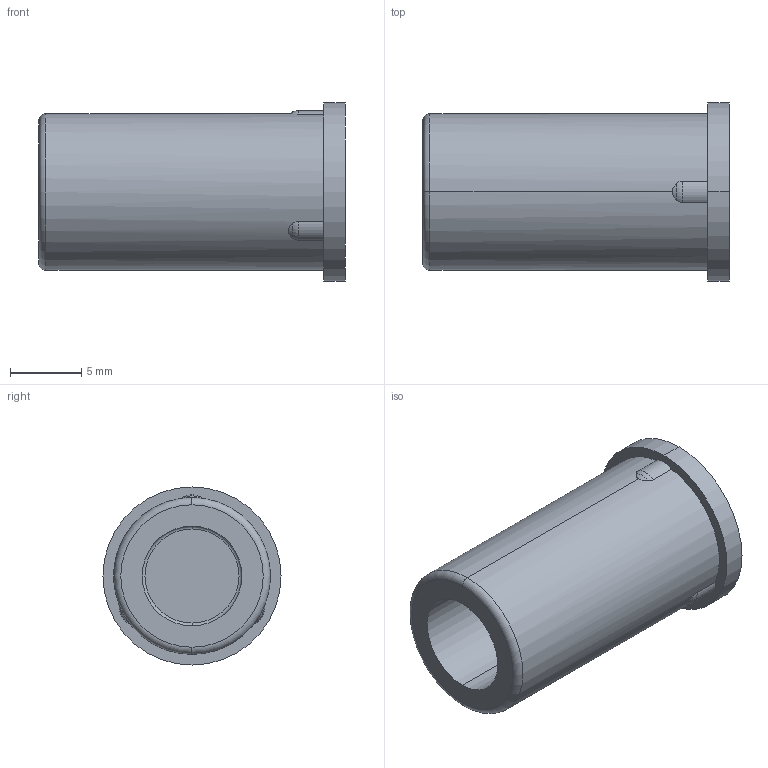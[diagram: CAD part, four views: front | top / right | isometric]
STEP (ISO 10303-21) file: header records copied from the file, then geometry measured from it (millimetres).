
FILE_DESCRIPTION(('Creo Elements/Direct Modeling STEP Export'),'2;1');
FILE_NAME('H20-0025-CL901-00_BB-110S.stp','2021-09-07T11:16:10',(''),(''),'Creo Elements/Direct Modeling STEP processor for AP214 (Solid Model)','Creo Elements/Direct Modeling 20.3B 05-Dec-2020 (C) Parametric Technology GmbH','');
FILE_SCHEMA(('AUTOMOTIVE_DESIGN { 1 0 10303 214 1 1 1 1 }'));
Length unit declared in the file: millimetre
Products named in the file (2): BB-110S
Assembly tree (1 placements, depth 2):
  BB-110S
    BB-110S
Bounding box: 21.5 x 12.5 x 12.5 mm (x, y, z)
Volume: 1314.8 mm3; surface area: 1426.1 mm2
Topology: 1 solids, 1 shells, 25 faces, 75 edges, 56 vertices
Faces by surface type: cylinder 9, torus 7, plane 6, cone 3
Entity records: 1008 total; most frequent: CARTESIAN_POINT 291, ORIENTED_EDGE 150, DIRECTION 128, EDGE_CURVE 75, VERTEX_POINT 56, AXIS2_PLACEMENT_3D 47, VECTOR 34, LINE 34
